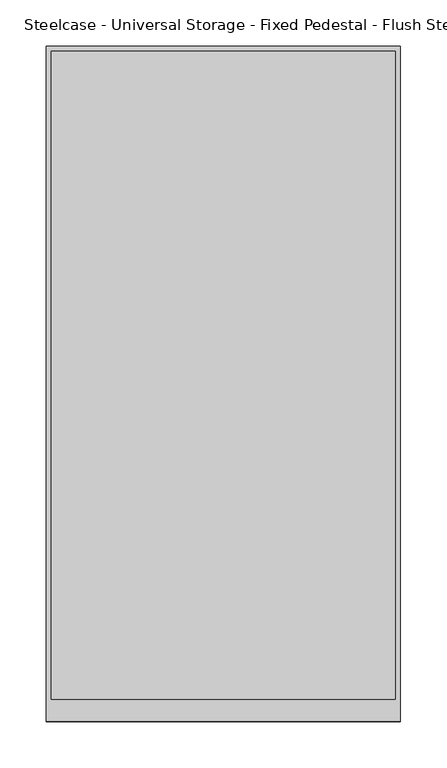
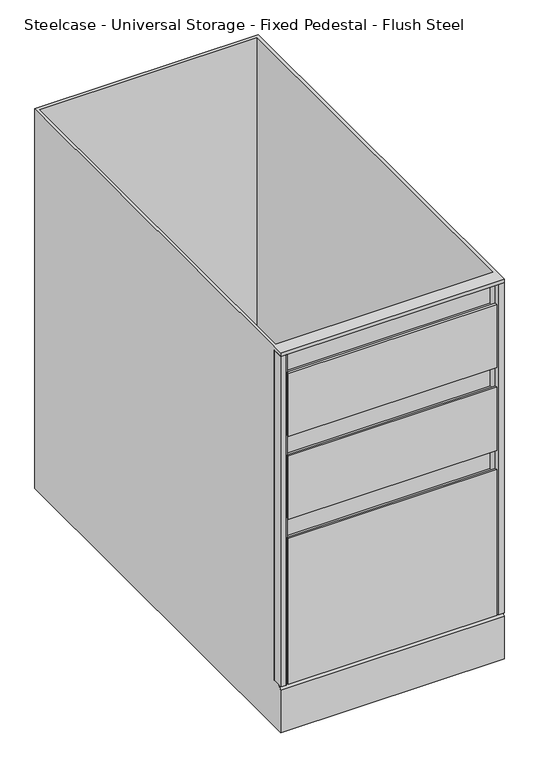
"""IFC4 building model written with IfcOpenShell, lengths in millimetres: furniture geometry, Steelcase - Universal Storage - Fixed Pedestal - Flush Steel : 2 Box/1 File - 27H x 28 5/8D."""

from ifc_helpers import new_model, si_unit, frame, origin, place, context, project, spatial, polyline, outline, extrude, faceted_brep, source, transform, mapped, element, save


def steelcase_universal_storage_fixed_pedestal_flush_steel_edc3f6f8(model_context):
    return source(origin(), model_context, "Body", "SolidModel", [
        extrude(outline(polyline([(368.3000121, 0.0), (12.7000004, 0.0), (12.7000004, 3.1750001), (368.3000121, 3.1750001), (368.3000121, 0.0)])), frame((0.0, 0.0, 530.2250121), z_axis=(0.0, 0.0, 1.0), x_axis=(1.0, 0.0, 0.0)), (0.0, 0.0, 1.0), 114.2999637),
        extrude(outline(polyline([(368.3000121, 0.0), (12.7000004, 0.0), (12.7000004, 3.1750001), (368.3000121, 3.1750001), (368.3000121, 0.0)])), frame((0.0, 0.0, 381.0000363), z_axis=(0.0, 0.0, 1.0), x_axis=(1.0, 0.0, 0.0)), (0.0, 0.0, 1.0), 114.1729758),
        extrude(outline(polyline([(368.3000121, 3.1750001), (12.7000004, 3.1750001), (12.7000004, 19.0495469), (368.3000121, 19.0495469), (368.3000121, 3.1750001)])), frame((0.0, 0.0, 82.550003), z_axis=(0.0, 0.0, 1.0), x_axis=(1.0, 0.0, 0.0)), (0.0, 0.0, 1.0), 254.000003),
        extrude(outline(polyline([(368.3000121, 3.1750001), (12.7000004, 3.1750001), (12.7000004, 19.0495469), (368.3000121, 19.0495469), (368.3000121, 3.1750001)])), frame((0.0, 0.0, 381.0000363), z_axis=(0.0, 0.0, 1.0), x_axis=(1.0, 0.0, 0.0)), (0.0, 0.0, 1.0), 104.7749637),
        extrude(outline(polyline([(368.3000121, 3.1750001), (12.7000004, 3.1750001), (12.7000004, 19.0495469), (368.3000121, 19.0495469), (368.3000121, 3.1750001)])), frame((0.0, 0.0, 530.2250121), z_axis=(0.0, 0.0, 1.0), x_axis=(1.0, 0.0, 0.0)), (0.0, 0.0, 1.0), 104.7749637),
        extrude(outline(polyline([(368.3000121, 0.0), (12.7000004, 0.0), (12.7000004, 3.1750001), (368.3000121, 3.1750001), (368.3000121, 0.0)])), frame((0.0, 0.0, 82.550003), z_axis=(0.0, 0.0, 1.0), x_axis=(1.0, 0.0, 0.0)), (0.0, 0.0, 1.0), 263.5249849),
        faceted_brep([(381.0, 0.0, 679.4500242), (381.0, 19.0495469, 679.4500242), (381.0, 19.0495469, 82.550003), (381.0, 6.350003, 82.550003), (381.0, 0.0, 76.2), (381.0, 0.0, 0.0), (381.0, 727.202, 0.0), (381.0, 727.202, 685.8), (381.0, 0.0, 685.8), (0.0, 0.0, 679.4500242), (0.0, 0.0, 685.8), (0.0, 727.202, 685.8), (0.0, 727.202, 0.0), (0.0, 0.0, 0.0), (0.0, 0.0, 76.2), (0.0, 6.350003, 82.550003), (0.0, 19.0495469, 82.550003), (0.0, 19.0495469, 679.4500242), (5.08, 722.122, 685.8), (375.92, 722.122, 685.8), (375.92, 24.1295469, 685.8), (5.08, 24.1295469, 685.8), (375.92, 722.122, 82.550003), (5.08, 722.122, 82.550003), (5.08, 24.1295469, 82.550003), (375.92, 24.1295469, 82.550003)], [[[0, 1, 2, 3, 4, 5, 6, 7, 8]], [[9, 10, 11, 12, 13, 14, 15, 16, 17]], [[1, 0, 9, 17]], [[2, 1, 17, 16]], [[2, 16, 15, 3]], [[13, 5, 4, 14]], [[6, 5, 13, 12]], [[7, 6, 12, 11]], [[8, 7, 11, 10], [18, 19, 20, 21]], [[0, 8, 10, 9]], [[4, 3, 15, 14]], [[22, 23, 24, 25]], [[23, 22, 19, 18]], [[24, 23, 18, 21]], [[25, 24, 21, 20]], [[22, 25, 20, 19]]]),
        extrude(outline(polyline([(12.7000004, 19.0495469), (12.7000004, 3.1750001), (9.5250003, 0.0), (0.0, 0.0), (0.0, 19.0495469), (12.7000004, 19.0495469)])), frame((0.0, 0.0, 82.550003), z_axis=(0.0, 0.0, 1.0), x_axis=(1.0, 0.0, 0.0)), (0.0, 0.0, 1.0), 596.9000212),
        extrude(outline(polyline([(381.0000125, 19.0495469), (381.0000125, 0.0), (371.4750122, 0.0), (368.3000121, 3.1750001), (368.3000121, 19.0495469), (381.0000125, 19.0495469)])), frame((0.0, 0.0, 82.550003), z_axis=(0.0, 0.0, 1.0), x_axis=(1.0, 0.0, 0.0)), (0.0, 0.0, 1.0), 596.9000212),
    ])


if __name__ == "__main__":
    model = new_model("IFC4")
    model_context = context("Model", 3, world=origin())
    ifc_project = project(units=[si_unit("LENGTHUNIT", "METRE", prefix="MILLI")], contexts=[model_context])
    site = spatial("IfcSite", under=ifc_project)
    building = spatial("IfcBuilding", under=site)
    placement = place(None, origin())
    steelcase_universal_storage_fixed_pedestal_flush_steel_shape = steelcase_universal_storage_fixed_pedestal_flush_steel_edc3f6f8(model_context)
    element("IfcFurniture", 1, ObjectType="Steelcase - Universal Storage - Fixed Pedestal - Flush Steel : 2 Box/1 File - 27H x 28 5/8D", at=placement, inside=building, context=model_context, shape_type="MappedRepresentation", body=[
        mapped(steelcase_universal_storage_fixed_pedestal_flush_steel_shape, transform((0.0, 0.0, 0.0), x_axis=(1.0, 0.0, 0.0), y_axis=(0.0, 1.0, 0.0), z_axis=(0.0, 0.0, 1.0))),
    ])
    save(model, "model.ifc")
